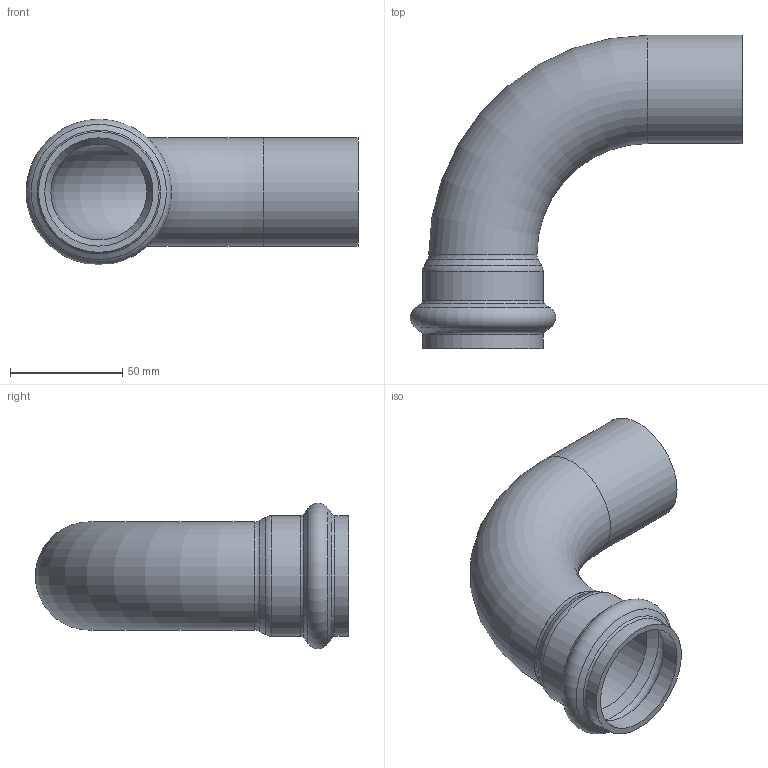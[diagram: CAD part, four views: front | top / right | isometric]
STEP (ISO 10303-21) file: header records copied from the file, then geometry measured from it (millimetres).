
FILE_DESCRIPTION(/* description */ ('VIC 90 DEG ST ELBOW STYLE P562 (P X T)','CAx-IF Rec.Pracs.---Representation and Presentation of Product Manufacturing Information (PMI)---4.0---2014-10-13'),/* implementation_level */ '2;1');
FILE_NAME(/* name */ 'C:\Users\kkamble\AppData\Roaming\Autodesk\ApplicationPlugins\Back Up\Victaulic_SS-Vic-Press-TP 316_Elbow Street 90 Deg_Style P562 (VPxPE)\Victaulic_SS-Vic-Press-TP 316_Elbow Street 90 Deg_Style P562 (VPxPE)_1.5 (40).stp',/* time_stamp */ '2020-08-14T14:07:23+06:00',/* author */ ('AAyare'),/* organization */ ('Victaulic'),/* preprocessor_version */ 'ST-DEVELOPER v17.2',/* originating_system */ 'Autodesk Inventor 2019',/* authorisation */ '');
FILE_SCHEMA (('AP242_MANAGED_MODEL_BASED_3D_ENGINEERING_MIM_LF { 1 0 10303 442 1 1 4 }'));
Length unit declared in the file: inch
Products named in the file (1): P562-01.5
Bounding box: 148.04 x 139.7 x 64.93 mm (x, y, z)
Volume: 84380.4 mm3; surface area: 61716.8 mm2
Topology: 1 solids, 1 shells, 24 faces, 82 edges, 60 vertices
Faces by surface type: torus 8, cylinder 8, cone 6, plane 2
Full cylindrical faces by diameter (mm): 42.723 x2, 48.26 x4, 53.797 x2
Entity records: 1098 total; most frequent: DIRECTION 226, CARTESIAN_POINT 184, ORIENTED_EDGE 164, AXIS2_PLACEMENT_3D 106, EDGE_CURVE 82, CIRCLE 68, VERTEX_POINT 60, EDGE_LOOP 26
